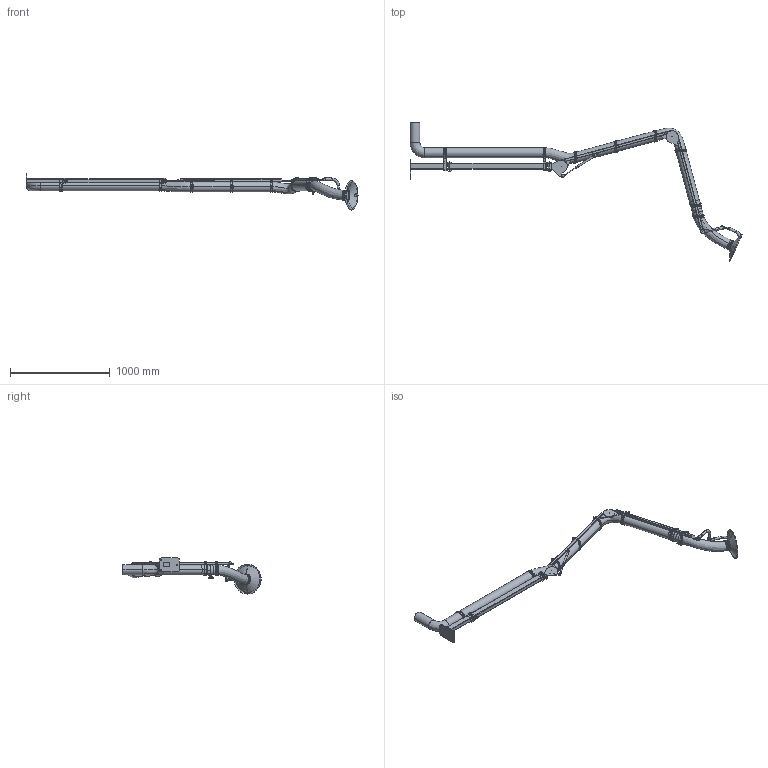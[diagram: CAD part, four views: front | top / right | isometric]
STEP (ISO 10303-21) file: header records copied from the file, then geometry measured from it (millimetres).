
FILE_DESCRIPTION((''),'2;1');
FILE_NAME('PSR_4000-100_D_EXC','2022-10-04T13:26:36',('Tomas Bellgran'),(''),'CREO PARAMETRIC BY PTC INC, 2018260','CREO PARAMETRIC BY PTC INC, 2018260','');
FILE_SCHEMA(('AUTOMOTIVE_DESIGN { 1 0 10303 214 1 1 1 1 }'));
Length unit declared in the file: millimetre
Products named in the file (42): 141558; 141580; 141581; 122701; 141514; 141560; 141582; 141587; 141524; 121391; 131150_LIGHT; 139380_LIGHT; 131151_LIGHT; 131170_LIGHT; 144356; 141589; 134343_AF0; G_P136_WELD-REF; 141590; 120626; 122750_LIGHT; 122717_LIGHT; 120127_COMPL_LIGHT; 130317; ROD_STAB_8-160-REF; 131095; 130322_AF1; 131145; 131205; 122291; 122295; 131215; 131219; 131220; 131200; 147054_EXC; 121070; 124460; 107521-11; 121000_LIGHT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
Assembly tree (60 placements, depth 4):
  PSR_4000-100_D_EXC
    141514
      141558
      141580
      141581
      122701
    141524
      141560
      141582
      141587
    121391  x4
    131150_LIGHT
    131170_LIGHT
      139380_LIGHT
      131151_LIGHT
    144356  x2
    141590
      141589
      134343_AF0
      G_P136_WELD-REF
    120626
    122750_LIGHT
    122717_LIGHT
    120127_COMPL_LIGHT  x2
    130322_AF1
      130317
      ROD_STAB_8-160-REF
      131095  x2
    131145  x2
    131200
      131205
      122295
        122291
      131220
        131215
        131219
    147054_EXC
    121070
    124460  x6
    107521-11  x6
    121000_LIGHT  x2
    107521-20  x2
Bounding box: 3333.14 x 1388.34 x 362.95 mm (x, y, z)
Volume: 39530076.6 mm3; surface area: 2596573 mm2
Topology: 52 solids, 52 shells, 1369 faces, 3315 edges, 2058 vertices
Faces by surface type: plane 548, cylinder 404, bspline 290, cone 48, extrusion 36, torus 26, revolution 13, sphere 4
Entity records: 47762 total; most frequent: CARTESIAN_POINT 16490, DIRECTION 3911, ORIENTED_EDGE 3846, PRESENTATION_STYLE_ASSIGNMENT 2589, STYLED_ITEM 2566, CURVE_STYLE 1954, EDGE_CURVE 1923, AXIS2_PLACEMENT_3D 1475
